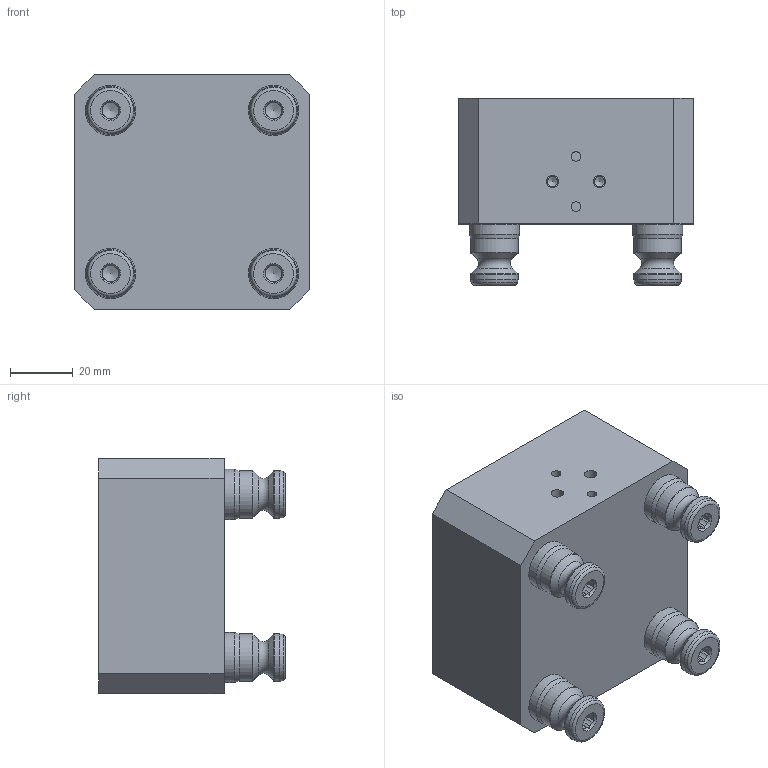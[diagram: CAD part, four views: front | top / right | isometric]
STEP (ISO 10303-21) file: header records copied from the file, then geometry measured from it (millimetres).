
FILE_DESCRIPTION (( 'STEP AP214' ), '1' );
FILE_NAME ('A52-BLANK_WEBSITE.STEP', '2025-08-13T04:32:52', ( '' ), ( '' ), 'SwSTEP 2.0', 'SolidWorks 2025', '' );
FILE_SCHEMA (( 'AUTOMOTIVE_DESIGN' ));
Length unit declared in the file: millimetre
Products named in the file (5): M8X20.FPSS_WEBSITE_93245A145; PS16F-1_WEBSITE_HARD TURN; A52-BLANK_WEBSITE; A52-B_WEBSITE; PS16F_WEBSITE
Assembly tree (7 placements, depth 3):
  A52-BLANK_WEBSITE
    A52-B_WEBSITE
    PS16F_WEBSITE  x4
      PS16F-1_WEBSITE_HARD TURN
      M8X20.FPSS_WEBSITE_93245A145
Bounding box: 75 x 59.56 x 75 mm (x, y, z)
Volume: 232535.7 mm3; surface area: 34534.9 mm2
Topology: 9 solids, 9 shells, 238 faces, 554 edges, 350 vertices
Faces by surface type: plane 114, cone 50, cylinder 46, torus 28
Full cylindrical faces by diameter (mm): 3.023 x2, 3.3 x2, 4 x2, 5.25 x4, 6.8 x8, 8 x8, 11.991 x4, 12.017 x4, 15.202 x8, 15.997 x4
Entity records: 2314 total; most frequent: CARTESIAN_POINT 391, DIRECTION 390, ORIENTED_EDGE 270, AXIS2_PLACEMENT_3D 168, EDGE_LOOP 144, EDGE_CURVE 135, FACE_OUTER_BOUND 117, VERTEX_POINT 109
